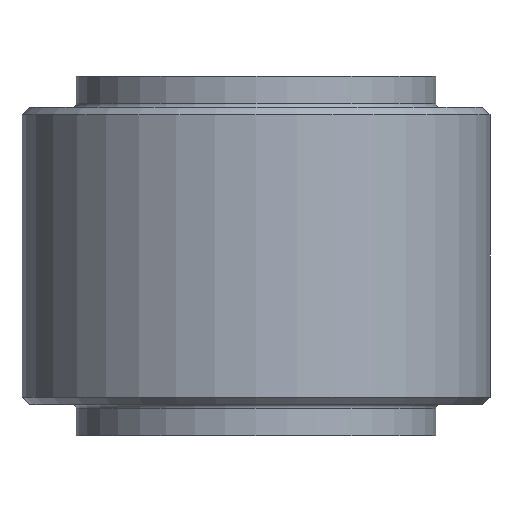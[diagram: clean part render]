
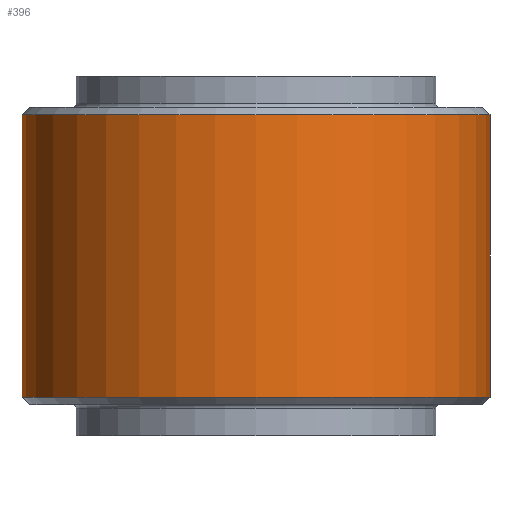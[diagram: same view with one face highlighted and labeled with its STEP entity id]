
A CAD part, front view. The second image highlights one B-rep face of the part: STEP entity #396.
In plain terms, the highlighted cylindrical face has radius 47.625 mm (diameter 95.25 mm), a partial arc.
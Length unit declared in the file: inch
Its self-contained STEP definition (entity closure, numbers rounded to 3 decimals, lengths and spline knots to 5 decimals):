
#17 = ORIENTED_EDGE ( 'NONE', *, *, #1784, .T. ) ;
#19 = AXIS2_PLACEMENT_3D ( 'NONE', #1824, #1662, #1513 ) ;
#94 = VECTOR ( 'NONE', #405, 39.37008 ) ;
#130 = CARTESIAN_POINT ( 'NONE',  ( 1.875, 0., 0.18 ) ) ;
#156 = EDGE_LOOP ( 'NONE', ( #554, #1797, #1379, #17 ) ) ;
#178 = CARTESIAN_POINT ( 'NONE',  ( -1.875, 0., 2.44 ) ) ;
#271 = CARTESIAN_POINT ( 'NONE',  ( 0., 0., 0.18 ) ) ;
#285 = VERTEX_POINT ( 'NONE', #1783 ) ;
#323 = EDGE_CURVE ( 'NONE', #285, #558, #961, .T. ) ;
#396 = ADVANCED_FACE ( 'NONE', ( #817 ), #725, .T. ) ;
#405 = DIRECTION ( 'NONE',  ( 0., 0., -1. ) ) ;
#421 = DIRECTION ( 'NONE',  ( -1., 0., 0. ) ) ;
#450 = CIRCLE ( 'NONE', #1934, 1.875 ) ;
#554 = ORIENTED_EDGE ( 'NONE', *, *, #323, .F. ) ;
#558 = VERTEX_POINT ( 'NONE', #130 ) ;
#662 = DIRECTION ( 'NONE',  ( 0., 0., -1. ) ) ;
#722 = CARTESIAN_POINT ( 'NONE',  ( 1.875, 0., 2.75 ) ) ;
#725 = CYLINDRICAL_SURFACE ( 'NONE', #19, 1.875 ) ;
#817 = FACE_OUTER_BOUND ( 'NONE', #156, .T. ) ;
#845 = DIRECTION ( 'NONE',  ( 0., 0., -1. ) ) ;
#870 = EDGE_CURVE ( 'NONE', #285, #1228, #450, .T. ) ;
#961 = LINE ( 'NONE', #722, #94 ) ;
#1092 = VECTOR ( 'NONE', #845, 39.37008 ) ;
#1228 = VERTEX_POINT ( 'NONE', #178 ) ;
#1321 = VERTEX_POINT ( 'NONE', #1576 ) ;
#1334 = DIRECTION ( 'NONE',  ( 0., 0., 1. ) ) ;
#1379 = ORIENTED_EDGE ( 'NONE', *, *, #1580, .T. ) ;
#1441 = CARTESIAN_POINT ( 'NONE',  ( -1.875, 0., 2.75 ) ) ;
#1495 = LINE ( 'NONE', #1441, #1092 ) ;
#1513 = DIRECTION ( 'NONE',  ( -1., 0., 0. ) ) ;
#1562 = CARTESIAN_POINT ( 'NONE',  ( 0., 0., 2.44 ) ) ;
#1576 = CARTESIAN_POINT ( 'NONE',  ( -1.875, 0., 0.18 ) ) ;
#1580 = EDGE_CURVE ( 'NONE', #1228, #1321, #1495, .T. ) ;
#1616 = CIRCLE ( 'NONE', #1881, 1.875 ) ;
#1662 = DIRECTION ( 'NONE',  ( 0., 0., -1. ) ) ;
#1724 = DIRECTION ( 'NONE',  ( 1., 0., 0. ) ) ;
#1783 = CARTESIAN_POINT ( 'NONE',  ( 1.875, 0., 2.44 ) ) ;
#1784 = EDGE_CURVE ( 'NONE', #1321, #558, #1616, .T. ) ;
#1797 = ORIENTED_EDGE ( 'NONE', *, *, #870, .T. ) ;
#1824 = CARTESIAN_POINT ( 'NONE',  ( 0., 0., 2.75 ) ) ;
#1881 = AXIS2_PLACEMENT_3D ( 'NONE', #271, #1334, #421 ) ;
#1934 = AXIS2_PLACEMENT_3D ( 'NONE', #1562, #662, #1724 ) ;
